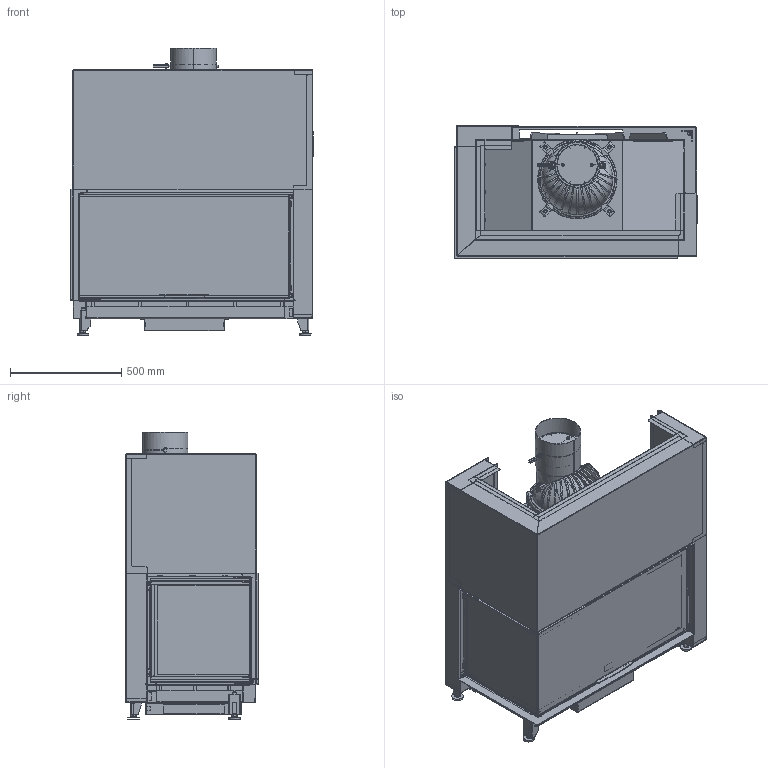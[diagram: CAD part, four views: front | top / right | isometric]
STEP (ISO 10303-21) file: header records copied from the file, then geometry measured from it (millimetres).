
FILE_DESCRIPTION(/* description */ (''),/* implementation_level */ '2;1');
FILE_NAME(/* name */ 'C:\ADSK_DM_WS\CAD_3D\03 Geraete\RII 50x100x50\Zeichnungen\RII_50x100x50_Links_ohne_Mantel_Oben_Gen2_2022-03133.stp',/* time_stamp */ '2022-08-02T10:17:50+02:00',/* author */ ('TIS'),/* organization */ (''),/* preprocessor_version */ 'ST-DEVELOPER v18.1',/* originating_system */ 'Autodesk Inventor 2022',/* authorisation */ '');
FILE_SCHEMA (('AUTOMOTIVE_DESIGN { 1 0 10303 214 3 1 1 }'));
Products named in the file (7): 2022-03133; 2022-03130; 2022-03129; 2022-03128; 2022-03127; 2022-03125; 2022-03124
Assembly tree (6 placements, depth 2):
  2022-03133
    2022-03130
    2022-03129
    2022-03128
    2022-03127
    2022-03125
    2022-03124
Bounding box: 1088.9 x 596.5 x 1288.56 mm (x, y, z)
Volume: 58649274.8 mm3; surface area: 20013067 mm2
Topology: 22 solids, 33 shells, 7834 faces, 20668 edges, 12789 vertices
Faces by surface type: plane 4908, cylinder 2465, bspline 226, cone 172, torus 63
Full cylindrical faces by diameter (mm): 3.242 x6, 4.5 x4, 4.8 x10, 6 x5, 7.5 x1, 7.9 x1, 8 x9, 9 x3, 9.5 x10, 10 x7, 10.21 x2, 11.192 x3, 11.4 x6, 12 x2, 14 x1, 16 x17, 20 x2, 30 x4, 163 x1, 333 x1, 339 x1
Entity records: 256994 total; most frequent: CARTESIAN_POINT 53155, ORIENTED_EDGE 41296, DIRECTION 40885, EDGE_CURVE 20695, AXIS2_PLACEMENT_3D 13632, LINE 13621, VECTOR 13621, VERTEX_POINT 12791
